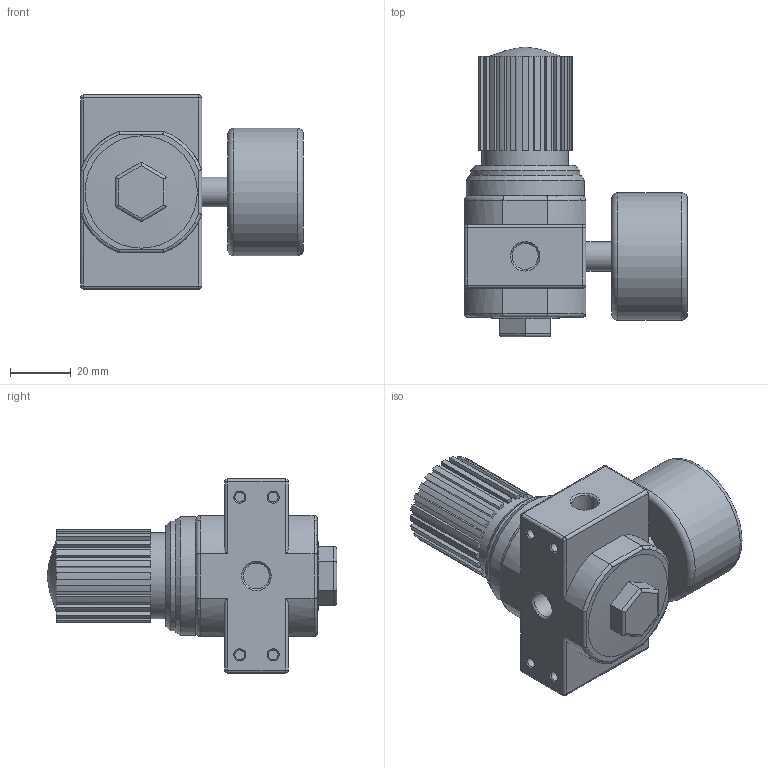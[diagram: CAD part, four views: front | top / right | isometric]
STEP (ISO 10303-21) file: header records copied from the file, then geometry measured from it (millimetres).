
FILE_DESCRIPTION(/* description */ ('STEP AP214'),/* implementation_level */ '2;1');
FILE_NAME(/* name */ '90-RC-18-xx-02.stp',/* time_stamp */ '2026-01-16T07:53:25+01:00',/* author */ ('Tschernatsch'),/* organization */ ('CADENAS'),/* preprocessor_version */ 'ST-DEVELOPER v20',/* originating_system */ 'Autodesk Inventor 2024',/* authorisation */ ' ');
FILE_SCHEMA (('AUTOMOTIVE_DESIGN { 1 0 10303 214 3 1 1 }'));
Length unit declared in the file: millimetre
Products named in the file (1): LR-G1/8-MINI
Bounding box: 73.5 x 95.5 x 64 mm (x, y, z)
Volume: 150553.4 mm3; surface area: 25730.1 mm2
Topology: 1 solids, 2 shells, 218 faces, 552 edges, 342 vertices
Faces by surface type: plane 114, cylinder 75, torus 10, cone 10, sphere 8, bspline 1
Full cylindrical faces by diameter (mm): 3.242 x4, 8.566 x4, 9.728 x1, 28.5 x1, 36 x1, 39 x1, 42 x1
Entity records: 6769 total; most frequent: CARTESIAN_POINT 1422, DIRECTION 1153, ORIENTED_EDGE 1086, EDGE_CURVE 543, AXIS2_PLACEMENT_3D 422, VERTEX_POINT 342, LINE 309, VECTOR 309
